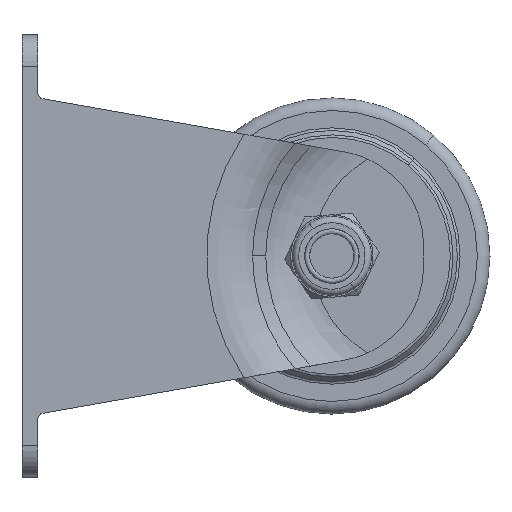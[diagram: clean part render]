
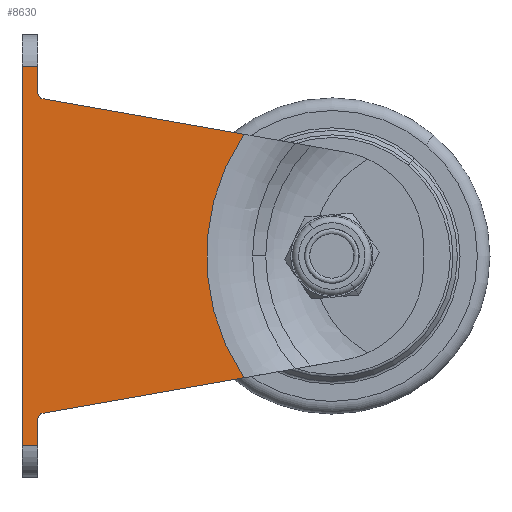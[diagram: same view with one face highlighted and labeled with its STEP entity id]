
A CAD part, left-side view. The second image highlights one B-rep face of the part: STEP entity #8630.
In plain terms, the highlighted planar face has unit normal (-1, 0, 0) as drawn and (0, 0, 1) by its records, which use the part's own axes.
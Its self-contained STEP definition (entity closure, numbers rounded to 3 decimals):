
#79 = EDGE_CURVE ( 'NONE', #9651, #21105, #15597, .T. ) ;
#245 = LINE ( 'NONE', #10951, #22380 ) ;
#278 = CARTESIAN_POINT ( 'NONE',  ( -35., 0., 27.5 ) ) ;
#513 = VERTEX_POINT ( 'NONE', #12702 ) ;
#677 = ORIENTED_EDGE ( 'NONE', *, *, #12398, .T. ) ;
#695 = ORIENTED_EDGE ( 'NONE', *, *, #21622, .T. ) ;
#1105 = EDGE_CURVE ( 'NONE', #9120, #9712, #5883, .T. ) ;
#1115 = LINE ( 'NONE', #8058, #5373 ) ;
#1171 = CARTESIAN_POINT ( 'NONE',  ( -25.839, 3.5, 27.5 ) ) ;
#1220 = DIRECTION ( 'NONE',  ( -0.174, 0.985, 0. ) ) ;
#1419 = CARTESIAN_POINT ( 'NONE',  ( -14.87, 59.951, 27.5 ) ) ;
#2113 = DIRECTION ( 'NONE',  ( 0., 0., -1. ) ) ;
#2840 = ORIENTED_EDGE ( 'NONE', *, *, #17420, .T. ) ;
#2911 = CARTESIAN_POINT ( 'NONE',  ( -25.839, 2.5, 27.5 ) ) ;
#3306 = EDGE_CURVE ( 'NONE', #513, #13673, #8852, .T. ) ;
#3563 = DIRECTION ( 'NONE',  ( 0., -1., 0. ) ) ;
#3567 = CARTESIAN_POINT ( 'NONE',  ( 24.854, 3.326, 27.5 ) ) ;
#3632 = VECTOR ( 'NONE', #13514, 1000. ) ;
#3775 = ORIENTED_EDGE ( 'NONE', *, *, #3306, .T. ) ;
#4201 = LINE ( 'NONE', #13427, #9010 ) ;
#5373 = VECTOR ( 'NONE', #6902, 1000. ) ;
#5443 = CARTESIAN_POINT ( 'NONE',  ( 30., 63.5, 27.5 ) ) ;
#5554 = DIRECTION ( 'NONE',  ( 0., 1., 0. ) ) ;
#5883 = CIRCLE ( 'NONE', #11693, 1. ) ;
#6022 = CIRCLE ( 'NONE', #7469, 1. ) ;
#6487 = DIRECTION ( 'NONE',  ( 0., 0., -1. ) ) ;
#6532 = DIRECTION ( 'NONE',  ( -1., 0., 0. ) ) ;
#6722 = CARTESIAN_POINT ( 'NONE',  ( -30., 0., 27.5 ) ) ;
#6852 = EDGE_CURVE ( 'NONE', #21105, #11012, #245, .T. ) ;
#6902 = DIRECTION ( 'NONE',  ( -1., 0., 0. ) ) ;
#7469 = AXIS2_PLACEMENT_3D ( 'NONE', #1171, #14988, #13043 ) ;
#7534 = ORIENTED_EDGE ( 'NONE', *, *, #12267, .T. ) ;
#8058 = CARTESIAN_POINT ( 'NONE',  ( -35., 2.5, 27.5 ) ) ;
#8089 = CARTESIAN_POINT ( 'NONE',  ( 0., 63.5, 27.5 ) ) ;
#8192 = VERTEX_POINT ( 'NONE', #12771 ) ;
#8630 = ADVANCED_FACE ( 'NONE', ( #11777 ), #9629, .F. ) ;
#8838 = EDGE_LOOP ( 'NONE', ( #13975, #3775, #677, #13635, #7534, #695, #2840, #16047, #20463, #9373 ) ) ;
#8852 = LINE ( 'NONE', #5443, #14677 ) ;
#9010 = VECTOR ( 'NONE', #1220, 1000. ) ;
#9013 = CARTESIAN_POINT ( 'NONE',  ( -24.854, 3.326, 27.5 ) ) ;
#9056 = DIRECTION ( 'NONE',  ( 1., 0., 0. ) ) ;
#9120 = VERTEX_POINT ( 'NONE', #13421 ) ;
#9373 = ORIENTED_EDGE ( 'NONE', *, *, #6852, .T. ) ;
#9629 = PLANE ( 'NONE',  #11857 ) ;
#9651 = VERTEX_POINT ( 'NONE', #2911 ) ;
#9712 = VERTEX_POINT ( 'NONE', #3567 ) ;
#9955 = DIRECTION ( 'NONE',  ( 0., 0., -1. ) ) ;
#10362 = AXIS2_PLACEMENT_3D ( 'NONE', #8089, #6487, #20572 ) ;
#10951 = CARTESIAN_POINT ( 'NONE',  ( -30., 63.5, 27.5 ) ) ;
#11012 = VERTEX_POINT ( 'NONE', #6722 ) ;
#11444 = CARTESIAN_POINT ( 'NONE',  ( -35., 63.5, 27.5 ) ) ;
#11693 = AXIS2_PLACEMENT_3D ( 'NONE', #19614, #2113, #16055 ) ;
#11777 = FACE_OUTER_BOUND ( 'NONE', #8838, .T. ) ;
#11857 = AXIS2_PLACEMENT_3D ( 'NONE', #11444, #9955, #6532 ) ;
#12129 = LINE ( 'NONE', #1419, #3632 ) ;
#12267 = EDGE_CURVE ( 'NONE', #9712, #8192, #4201, .T. ) ;
#12398 = EDGE_CURVE ( 'NONE', #13673, #9120, #1115, .T. ) ;
#12702 = CARTESIAN_POINT ( 'NONE',  ( 30., 0., 27.5 ) ) ;
#12771 = CARTESIAN_POINT ( 'NONE',  ( 19.254, 35.089, 27.5 ) ) ;
#13043 = DIRECTION ( 'NONE',  ( -1., 0., 0. ) ) ;
#13118 = VERTEX_POINT ( 'NONE', #9013 ) ;
#13421 = CARTESIAN_POINT ( 'NONE',  ( 25.839, 2.5, 27.5 ) ) ;
#13427 = CARTESIAN_POINT ( 'NONE',  ( 12.759, 71.921, 27.5 ) ) ;
#13514 = DIRECTION ( 'NONE',  ( -0.174, -0.985, 0. ) ) ;
#13534 = DIRECTION ( 'NONE',  ( -1., 0., 0. ) ) ;
#13635 = ORIENTED_EDGE ( 'NONE', *, *, #1105, .T. ) ;
#13673 = VERTEX_POINT ( 'NONE', #21976 ) ;
#13975 = ORIENTED_EDGE ( 'NONE', *, *, #18606, .T. ) ;
#14677 = VECTOR ( 'NONE', #5554, 1000. ) ;
#14988 = DIRECTION ( 'NONE',  ( 0., 0., -1. ) ) ;
#15597 = LINE ( 'NONE', #20752, #19027 ) ;
#15622 = VECTOR ( 'NONE', #9056, 1000. ) ;
#15922 = LINE ( 'NONE', #278, #15622 ) ;
#16047 = ORIENTED_EDGE ( 'NONE', *, *, #22231, .T. ) ;
#16055 = DIRECTION ( 'NONE',  ( -1., 0., 0. ) ) ;
#17420 = EDGE_CURVE ( 'NONE', #19745, #13118, #12129, .T. ) ;
#18606 = EDGE_CURVE ( 'NONE', #11012, #513, #15922, .T. ) ;
#19027 = VECTOR ( 'NONE', #13534, 1000. ) ;
#19031 = CARTESIAN_POINT ( 'NONE',  ( -30., 2.5, 27.5 ) ) ;
#19500 = CARTESIAN_POINT ( 'NONE',  ( -19.254, 35.089, 27.5 ) ) ;
#19614 = CARTESIAN_POINT ( 'NONE',  ( 25.839, 3.5, 27.5 ) ) ;
#19745 = VERTEX_POINT ( 'NONE', #19500 ) ;
#20463 = ORIENTED_EDGE ( 'NONE', *, *, #79, .T. ) ;
#20572 = DIRECTION ( 'NONE',  ( -1., 0., 0. ) ) ;
#20752 = CARTESIAN_POINT ( 'NONE',  ( -35., 2.5, 27.5 ) ) ;
#21105 = VERTEX_POINT ( 'NONE', #19031 ) ;
#21622 = EDGE_CURVE ( 'NONE', #8192, #19745, #22434, .T. ) ;
#21976 = CARTESIAN_POINT ( 'NONE',  ( 30., 2.5, 27.5 ) ) ;
#22231 = EDGE_CURVE ( 'NONE', #13118, #9651, #6022, .T. ) ;
#22380 = VECTOR ( 'NONE', #3563, 1000. ) ;
#22434 = CIRCLE ( 'NONE', #10362, 34.321 ) ;
